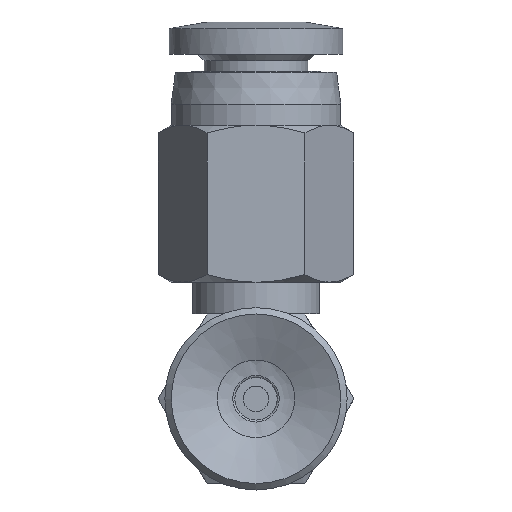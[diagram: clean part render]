
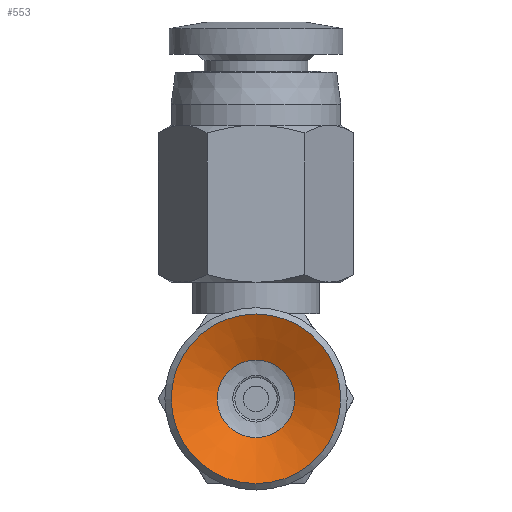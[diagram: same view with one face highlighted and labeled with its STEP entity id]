
A CAD part, front view. The second image highlights one B-rep face of the part: STEP entity #553.
In plain terms, the highlighted conical face has half-angle 65 degrees and reference radius 1.427 mm.
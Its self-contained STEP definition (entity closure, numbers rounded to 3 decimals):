
#553=ADVANCED_FACE('',(#852,#853),#854,.F.);
#852=FACE_BOUND('',#1246,.T.);
#853=FACE_OUTER_BOUND('',#1247,.T.);
#854=CONICAL_SURFACE('',#1248,1.427,1.134);
#1246=EDGE_LOOP('',(#2300));
#1247=EDGE_LOOP('',(#2301));
#1248=AXIS2_PLACEMENT_3D('',#2302,#2303,#2304);
#2300=ORIENTED_EDGE('',*,*,#2843,.T.);
#2301=ORIENTED_EDGE('',*,*,#2836,.T.);
#2302=CARTESIAN_POINT('',(0.0,7.096,0.));
#2303=DIRECTION('',(-0.0,-1.0,0.));
#2304=DIRECTION('',(0.0,0.,-1.0));
#2836=EDGE_CURVE('',#3228,#3228,#3229,.T.);
#2843=EDGE_CURVE('',#3242,#3242,#3243,.T.);
#3228=VERTEX_POINT('',#4068);
#3229=CIRCLE('',#4069,4.0);
#3242=VERTEX_POINT('',#4082);
#3243=CIRCLE('',#4083,1.828);
#4068=CARTESIAN_POINT('',(0.0,5.896,-4.0));
#4069=AXIS2_PLACEMENT_3D('',#4764,#4765,#4766);
#4082=CARTESIAN_POINT('',(0.0,6.909,-1.828));
#4083=AXIS2_PLACEMENT_3D('',#4785,#4786,#4787);
#4764=CARTESIAN_POINT('',(0.0,5.896,0.0));
#4765=DIRECTION('',(0.0,-1.0,0.));
#4766=DIRECTION('',(0.0,0.,-1.0));
#4785=CARTESIAN_POINT('',(0.0,6.909,0.0));
#4786=DIRECTION('',(0.0,1.0,0.));
#4787=DIRECTION('',(0.0,0.,-1.0));
